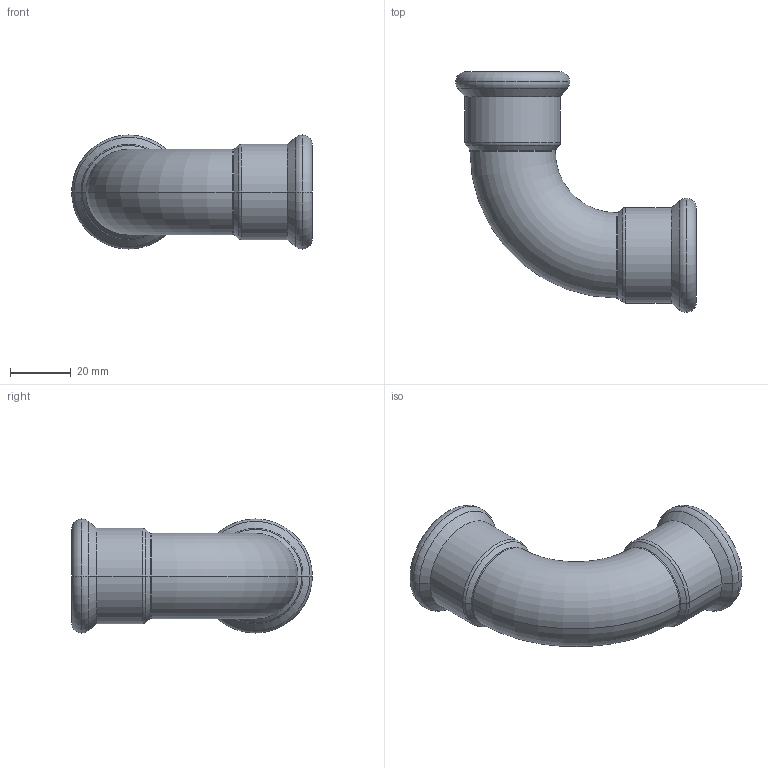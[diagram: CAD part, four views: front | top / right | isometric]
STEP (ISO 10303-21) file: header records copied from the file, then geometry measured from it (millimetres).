
FILE_DESCRIPTION(('OneSpaceDesigner STEP Export'),'2;1');
FILE_NAME('R2708 28x28.stp','2010-06-09T14:31:48',(''),(''),'OneSpace Designer STEP processor for AP214 (Solid Model)','OneSpace Modeling 15.00A 14-Mar-2007 (C) CoCreate Software GmbH','');
FILE_SCHEMA(('AUTOMOTIVE_DESIGN { 1 0 10303 214 1 1 1 1 }'));
Length unit declared in the file: millimetre
Products named in the file (2): R2708_28x28
Assembly tree (1 placements, depth 2):
  R2708_28x28
    R2708_28x28
Bounding box: 79.03 x 79.03 x 37.45 mm (x, y, z)
Volume: 17306.6 mm3; surface area: 21749 mm2
Topology: 1 solids, 1 shells, 122 faces, 300 edges, 190 vertices
Faces by surface type: plane 60, cylinder 38, torus 16, cone 8
Entity records: 3259 total; most frequent: ORIENTED_EDGE 600, CARTESIAN_POINT 530, DIRECTION 502, EDGE_CURVE 300, VERTEX_POINT 190, VECTOR 178, LINE 178, AXIS2_PLACEMENT_3D 162
